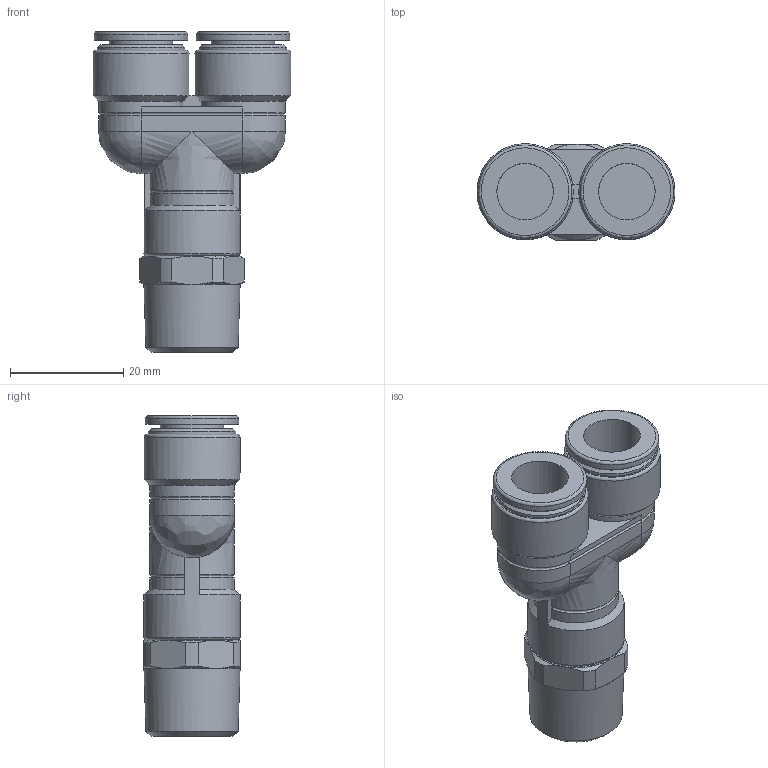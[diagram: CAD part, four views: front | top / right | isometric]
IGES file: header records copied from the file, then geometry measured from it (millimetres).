
Global section: file name: [13] FS10-03MY FS10-03MYW; native system: Autodesk Inventor 2014; preprocessor: unknown; author: kazuhiro.t; date: 20130806.165545; units: millimetre
Bounding box: 35 x 17.01 x 56.7 mm (x, y, z)
Volume: 14705.1 mm3; surface area: 6264.4 mm2
Topology: 1 solids, 1 shells, 92 faces, 212 edges, 128 vertices
Faces by surface type: bspline 92
